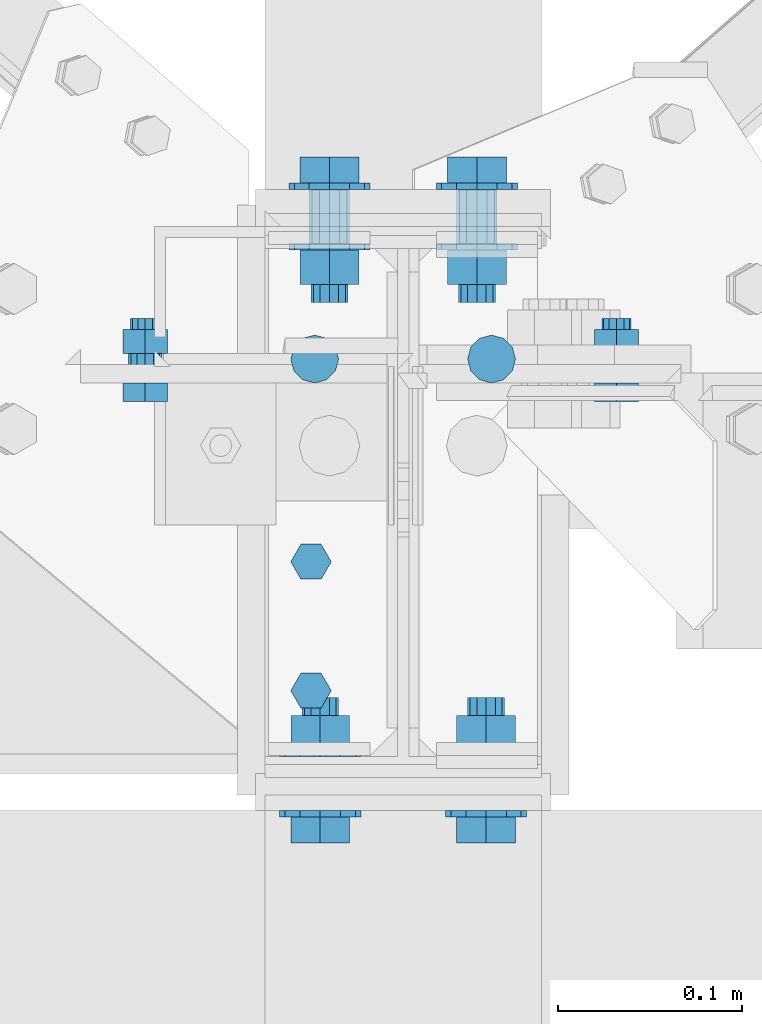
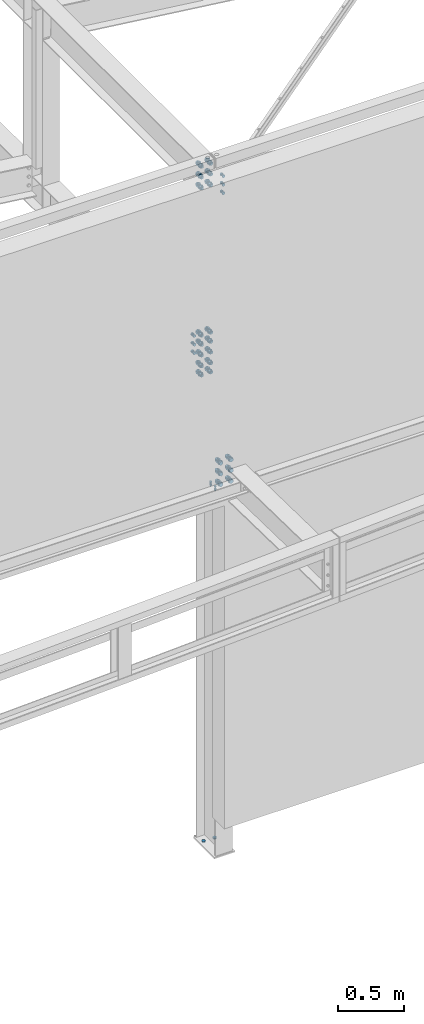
# One storey, part 103 of 3134: 7 mechanical fasteners, 6 elements without a shape of their own.
"""IFC2X3 building model written with IfcOpenShell, lengths in millimetres."""

import ifcopenshell
import ifcopenshell.guid

model = None  # the IFC model being written
_history = None  # IfcOwnerHistory: only IFC2X3 demands one
_inside = {}  # id of a spatial element -> (the spatial element, [elements in it])
_under = {}  # id of a project, library or spatial element -> (it, [spatial elements below it])
_declared = {}  # id of a project -> (the project, [libraries it declares])
_typed = {}  # id of a type object -> (the type object, [elements of that type])
_made_of = {}  # id of a material, layer set ... -> (it, [elements and type objects made of it])


def new_model(schema):
    """Start an empty IFC model of exactly this schema.

    Asked for "IFC4X3", IfcOpenShell would pick the latest addendum, in which some entities
    have other attributes; the version numbers below select the first issue.
    IFC2X3 requires an IfcOwnerHistory on every rooted entity: one is made here for all.
    """
    global model, _history
    if schema == "IFC4X3":
        model = ifcopenshell.file(schema_version=(4, 3, 0, 0))
    else:
        model = ifcopenshell.file(schema=schema)
    _inside.clear()
    _under.clear()
    _declared.clear()
    _typed.clear()
    _made_of.clear()
    _history = None
    if model.schema == "IFC2X3":
        org = make("IfcOrganization", Name="unknown")
        user = make(
            "IfcPersonAndOrganization",
            ThePerson=make("IfcPerson", FamilyName="unknown"),
            TheOrganization=org,
        )
        app = make(
            "IfcApplication",
            ApplicationDeveloper=org,
            Version="unknown",
            ApplicationFullName="unknown",
            ApplicationIdentifier="unknown",
        )
        _history = make(
            "IfcOwnerHistory",
            OwningUser=user,
            OwningApplication=app,
            ChangeAction="ADDED",
            CreationDate=0,
        )
    return model


def make(cls, **values):
    """One entity of the class cls with the attributes given. An attribute that is None is left unset."""
    return model.create_entity(
        cls, **{name: value for name, value in values.items() if value is not None}
    )


def rooted(cls, **values):
    """An entity with a GlobalId (a new one), such as an element, a storey or a relation."""
    return make(cls, GlobalId=ifcopenshell.guid.new(), OwnerHistory=_history, **values)


def si_unit(unit_type, name, prefix=None):
    """IfcSIUnit, for example si_unit("LENGTHUNIT", "METRE", prefix="MILLI")."""
    return make("IfcSIUnit", UnitType=unit_type, Prefix=prefix, Name=name)


def assignment(units):
    """IfcUnitAssignment: the units of a project."""
    return None if units is None else make("IfcUnitAssignment", Units=units)


def point(xyz):
    """IfcCartesianPoint."""
    return None if xyz is None else make("IfcCartesianPoint", Coordinates=xyz)


def direction(xyz):
    """IfcDirection."""
    return None if xyz is None else make("IfcDirection", DirectionRatios=xyz)


def frame(location, z_axis=None, x_axis=None):
    """IfcAxis2Placement3D, a coordinate frame: its origin and axes. An axis left out is left unset."""
    return make(
        "IfcAxis2Placement3D",
        Location=point(location),
        Axis=direction(z_axis),
        RefDirection=direction(x_axis),
    )


def origin_with_axes():
    """The frame at (0, 0, 0) with the z axis (0, 0, 1) and the x axis (1, 0, 0) written out."""
    return frame((0.0, 0.0, 0.0), z_axis=(0.0, 0.0, 1.0), x_axis=(1.0, 0.0, 0.0))


def place(relative_to, where):
    """IfcLocalPlacement: puts the frame where relative to a parent placement (None: the world)."""
    return make(
        "IfcLocalPlacement", PlacementRelTo=relative_to, RelativePlacement=where
    )


def context(
    kind, dimensions, precision=None, world=None, true_north=None, identifier=None
):
    """IfcGeometricRepresentationContext, for example the 3D "Model" context."""
    return make(
        "IfcGeometricRepresentationContext",
        ContextIdentifier=identifier,
        ContextType=kind,
        CoordinateSpaceDimension=dimensions,
        Precision=precision,
        WorldCoordinateSystem=world,
        TrueNorth=true_north,
    )


def subcontext(parent, identifier, kind, view, scale=None):
    """IfcGeometricRepresentationSubContext, for example "Body" below "Model"."""
    return make(
        "IfcGeometricRepresentationSubContext",
        ContextIdentifier=identifier,
        ContextType=kind,
        ParentContext=parent,
        TargetScale=scale,
        TargetView=view,
    )


def project(units=None, contexts=None):
    """IfcProject with its units and contexts."""
    return rooted(
        "IfcProject",
        Name="project",
        RepresentationContexts=contexts,
        UnitsInContext=assignment(units),
    )


def spatial(cls, under=None, at=None, **own):
    """A site, building, storey or space (cls), placed at a placement, below another one or the project."""
    s = rooted(cls, ObjectPlacement=at, **own)
    if under is not None:
        _under.setdefault(under.id(), (under, []))[1].append(s)
    return s


def faces_of(points, faces, orient=None, outer=None):
    """IfcFace entities. A face is a list of loops; a loop is a list of indices into points, from 0.

    orient and outer hold one flag for each loop. By default every Orientation is true, the
    first loop of a face is its IfcFaceOuterBound and the others are IfcFaceBound.
    """
    made = []
    for i, loops in enumerate(faces):
        bounds = []
        for j, loop in enumerate(loops):
            is_outer = j == 0 if outer is None else outer[i][j]
            bounds.append(
                make(
                    "IfcFaceOuterBound" if is_outer else "IfcFaceBound",
                    Bound=make("IfcPolyLoop", Polygon=[points[k] for k in loop]),
                    Orientation=True if orient is None else orient[i][j],
                )
            )
        made.append(make("IfcFace", Bounds=bounds))
    return made


def faceted_brep(points, faces, orient=None, outer=None, voids=None):
    """IfcFacetedBrep: a solid bounded by flat faces; with voids (closed shells), ...WithVoids."""
    shared = [point(p) for p in points]
    hull = make("IfcClosedShell", CfsFaces=faces_of(shared, faces, orient, outer))
    if voids is None:
        return make("IfcFacetedBrep", Outer=hull)
    return make(
        "IfcFacetedBrepWithVoids",
        Outer=hull,
        Voids=[
            make(cls, CfsFaces=faces_of(shared, fs, o, b)) for cls, fs, o, b in voids
        ],
    )


def shape(context_of_items, identifier, shape_type, items):
    """IfcShapeRepresentation: the items that make up one representation, for example the "Body"."""
    return make(
        "IfcShapeRepresentation",
        ContextOfItems=context_of_items,
        RepresentationIdentifier=identifier,
        RepresentationType=shape_type,
        Items=items,
    )


def source(mapping_origin, context_of_items, identifier, shape_type, items):
    """IfcRepresentationMap: a shape defined once, which mapped items show again and again."""
    return make(
        "IfcRepresentationMap",
        MappingOrigin=mapping_origin,
        MappedRepresentation=shape(context_of_items, identifier, shape_type, items),
    )


def transform(
    local_origin,
    x_axis=None,
    y_axis=None,
    z_axis=None,
    scale=None,
    scale2=None,
    scale3=None,
    uniform=True,
):
    """IfcCartesianTransformationOperator3D, or its non-uniform kind. x_axis, y_axis, z_axis: its Axis1, 2, 3."""
    if uniform:
        return make(
            "IfcCartesianTransformationOperator3D",
            Axis1=direction(x_axis),
            Axis2=direction(y_axis),
            LocalOrigin=point(local_origin),
            Scale=scale,
            Axis3=direction(z_axis),
        )
    return make(
        "IfcCartesianTransformationOperator3DnonUniform",
        Axis1=direction(x_axis),
        Axis2=direction(y_axis),
        LocalOrigin=point(local_origin),
        Scale=scale,
        Axis3=direction(z_axis),
        Scale2=scale2,
        Scale3=scale3,
    )


def mapped(mapping_source, mapping_target):
    """IfcMappedItem: shows the shape of a source again, moved by a transform."""
    return make(
        "IfcMappedItem", MappingSource=mapping_source, MappingTarget=mapping_target
    )


def material(Name=None, Category=None):
    """IfcMaterial."""
    return make("IfcMaterial", Name=Name, Category=Category)


def made_of(thing, what):
    """Note that an element or type object is made of a material, layer set ...; save() writes the relation."""
    if what is not None:
        _made_of.setdefault(what.id(), (what, []))[1].append(thing)
    return thing


def type_object(cls, material=None, **own):
    """A type object (cls), such as IfcWallType, which elements share."""
    return made_of(rooted(cls, **own), material)


def element(
    cls,
    number,
    at=None,
    inside=None,
    cuts=None,
    type_object=None,
    material=None,
    context=None,
    identifier="Body",
    shape_type=None,
    held_by="IfcProductDefinitionShape",
    body=None,
    shapes=None,
    **own,
):
    """One element of the class cls, such as IfcWall. Its Tag is "e" and its number.

    at: its placement. inside: the storey or other place that contains it. cuts: it is an
    opening in that element (IfcRelVoidsElement). A single representation is given by context,
    identifier, shape_type and body (its items); several are given by shapes. held_by: the class
    of the entity that holds the representations. save() writes the other relations.
    """
    e = rooted(cls, Tag="e%d" % number, ObjectPlacement=at, **own)
    if body is not None:
        shapes = [shape(context, identifier, shape_type, body)]
    if shapes is not None:
        e.Representation = make(held_by, Representations=shapes)
    if inside is not None:
        _inside.setdefault(inside.id(), (inside, []))[1].append(e)
    if cuts is not None:
        rooted(
            "IfcRelVoidsElement", RelatingBuildingElement=cuts, RelatedOpeningElement=e
        )
    if type_object is not None:
        _typed.setdefault(type_object.id(), (type_object, []))[1].append(e)
    return made_of(e, material)


def aggregate(whole, parts):
    """IfcRelAggregates: a whole, such as a stair, and the parts it consists of."""
    return rooted("IfcRelAggregates", RelatingObject=whole, RelatedObjects=parts)


def save(model, path):
    """Write the relations noted so far, then the file.

    IfcRelAggregates (storeys below a building ...), IfcRelContainedInSpatialStructure (elements
    in a storey), IfcRelDefinesByType, IfcRelAssociatesMaterial and IfcRelDeclares: one each for
    every whole, place, type object, material and project.
    """
    for whole, parts in _under.values():
        aggregate(whole, parts)
    for where, things in _inside.values():
        rooted(
            "IfcRelContainedInSpatialStructure",
            RelatedElements=things,
            RelatingStructure=where,
        )
    for kind, things in _typed.values():
        rooted("IfcRelDefinesByType", RelatedObjects=things, RelatingType=kind)
    for what, things in _made_of.values():
        rooted("IfcRelAssociatesMaterial", RelatedObjects=things, RelatingMaterial=what)
    for by, libraries in _declared.values():
        rooted("IfcRelDeclares", RelatingContext=by, RelatedDefinitions=libraries)
    model.write(path)


model = new_model("IFC2X3")

# Units and contexts
model_context = context("Model", 3, precision=1e-05, world=origin_with_axes())
body_context = subcontext(model_context, "Body", "Model", "MODEL_VIEW")
ifc_project = project(units=[si_unit("LENGTHUNIT", "METRE", prefix="MILLI"), si_unit("AREAUNIT", "SQUARE_METRE"), si_unit("VOLUMEUNIT", "CUBIC_METRE"), si_unit("MASSUNIT", "GRAM", prefix="KILO"), si_unit("TIMEUNIT", "SECOND"), si_unit("PLANEANGLEUNIT", "RADIAN"), si_unit("SOLIDANGLEUNIT", "STERADIAN"), si_unit("THERMODYNAMICTEMPERATUREUNIT", "DEGREE_CELSIUS"), si_unit("LUMINOUSINTENSITYUNIT", "LUMEN")], contexts=[model_context])

# Site, building, storey
site_placement = place(None, origin_with_axes())
site = spatial("IfcSite", under=ifc_project, at=site_placement, CompositionType="ELEMENT")
building_placement = place(site_placement, origin_with_axes())
building = spatial("IfcBuilding", under=site, at=building_placement, Name="Undefined", CompositionType="ELEMENT")
storey_placement = place(building_placement, origin_with_axes())
storey = spatial("IfcBuildingStorey", under=building, at=storey_placement, Name="Undefined", CompositionType="ELEMENT", Elevation=0.0)

# Assembly, mechanical fastener
assembly_1_placement = place(storey_placement, origin_with_axes())
assembly_1 = element("IfcElementAssembly", 1, at=assembly_1_placement, inside=storey, Name="UPN160", AssemblyPlace="NOTDEFINED", PredefinedType="RIGID_FRAME")
ifc_material_1 = material(Name="8.8")
mechanical_fastener_type = type_object("IfcMechanicalFastenerType", Name="Bolt assembly")
shared_shape_1 = source(origin_with_axes(), body_context, "Body", "Brep", [
    faceted_brep([(10.9696551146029, -15.5, 0.0), (5.48482755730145, -15.5, 9.5), (-5.48482755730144, -15.5, 9.5), (-10.9696551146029, -15.5, 1.34339530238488e-15), (-5.48482755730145, -15.5, -9.5), (5.48482755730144, -15.5, -9.50000000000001), (5.48482755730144, -7.5, -9.50000000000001), (-5.48482755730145, -7.5, -9.5), (-10.9696551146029, -7.5, 1.34339530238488e-15), (-5.48482755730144, -7.5, 9.5), (5.48482755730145, -7.5, 9.5), (10.9696551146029, -7.5, 0.0), (6.0, -7.5, 0.0), (5.19615242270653, -7.5, 3.00000000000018), (2.99999999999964, -7.5, 5.19615242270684), (-6.21801588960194e-13, -7.5, 6.0), (-3.00000000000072, -7.5, 5.19615242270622), (-5.19615242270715, -7.5, 2.9999999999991), (-6.0, -7.5, -1.24360317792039e-12), (-5.19615242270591, -7.5, -3.00000000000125), (-2.99999999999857, -7.5, -5.19615242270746), (1.85874342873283e-12, -7.5, -6.0), (3.00000000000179, -7.5, -5.1961524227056), (5.19615242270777, -7.5, -2.99999999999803), (5.19615242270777, 27.5000000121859, -2.99999999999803), (3.00000000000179, 27.5000000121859, -5.1961524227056), (1.85874342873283e-12, 27.5000000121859, -6.0), (-2.99999999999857, 27.5000000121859, -5.19615242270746), (-5.19615242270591, 27.5000000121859, -3.00000000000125), (-6.0, 27.5000000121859, -1.24360317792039e-12), (-5.19615242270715, 27.5000000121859, 2.9999999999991), (-3.00000000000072, 27.5000000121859, 5.19615242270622), (-6.21801588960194e-13, 27.5000000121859, 6.0), (2.99999999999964, 27.5000000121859, 5.19615242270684), (5.19615242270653, 27.5000000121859, 3.00000000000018), (6.0, 27.5000000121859, 0.0), (10.9696551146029, 10.0, 0.0), (5.48482755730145, 10.0, 9.5), (-5.48482755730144, 10.0, 9.5), (-10.9696551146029, 10.0, 1.34339530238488e-15), (-5.48482755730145, 10.0, -9.5), (5.48482755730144, 10.0, -9.50000000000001), (5.48482755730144, 20.0, -9.50000000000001), (-5.48482755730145, 20.0, -9.5), (-10.9696551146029, 20.0, 1.34339530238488e-15), (-5.48482755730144, 20.0, 9.5), (5.48482755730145, 20.0, 9.5), (10.9696551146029, 20.0, 0.0)], [[[0, 1, 2, 3, 4, 5]], [[6, 7, 8, 9, 10, 11]], [[0, 11, 10, 1]], [[1, 10, 9, 2]], [[2, 9, 8, 3]], [[3, 8, 7, 4]], [[4, 7, 6, 5]], [[5, 6, 11, 0]], [[12, 13, 14, 15, 16, 17, 18, 19, 20, 21, 22, 23]], [[24, 25, 26, 27, 28, 29, 30, 31, 32, 33, 34, 35]], [[12, 35, 34, 13]], [[13, 34, 33, 14]], [[14, 33, 32, 15]], [[15, 32, 31, 16]], [[16, 31, 30, 17]], [[17, 30, 29, 18]], [[18, 29, 28, 19]], [[19, 28, 27, 20]], [[20, 27, 26, 21]], [[21, 26, 25, 22]], [[22, 25, 24, 23]], [[23, 24, 35, 12]], [[36, 37, 38, 39, 40, 41]], [[42, 43, 44, 45, 46, 47]], [[36, 47, 46, 37]], [[37, 46, 45, 38]], [[38, 45, 44, 39]], [[39, 44, 43, 40]], [[40, 43, 42, 41]], [[41, 42, 47, 36]]]),
    faceted_brep([(7.0, -0.1, 0.0), (6.06217782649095, -0.1, 3.50000000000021), (3.49999999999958, -0.1, 6.06217782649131), (-7.25435187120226e-13, -0.1, 7.0), (-3.50000000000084, -0.1, 6.06217782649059), (-6.06217782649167, -0.1, 3.49999999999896), (-7.0, -0.1, -1.45087037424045e-12), (-6.06217782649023, -0.1, -3.50000000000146), (-3.49999999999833, -0.1, -6.06217782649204), (2.1685340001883e-12, -0.1, -7.0), (3.50000000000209, -0.1, -6.06217782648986), (6.0621778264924, -0.1, -3.4999999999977), (6.0621778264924, 10.0, -3.4999999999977), (3.50000000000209, 10.0, -6.06217782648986), (2.1685340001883e-12, 10.0, -7.0), (-3.49999999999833, 10.0, -6.06217782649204), (-6.06217782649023, 10.0, -3.50000000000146), (-7.0, 10.0, -1.45087037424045e-12), (-6.06217782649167, 10.0, 3.49999999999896), (-3.50000000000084, 10.0, 6.06217782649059), (-7.25435187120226e-13, 10.0, 7.0), (3.49999999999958, 10.0, 6.06217782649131), (6.06217782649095, 10.0, 3.50000000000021), (7.0, 10.0, 0.0), (7.0, -7.4, 0.0), (6.06217782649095, -7.4, 3.50000000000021), (3.49999999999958, -7.4, 6.06217782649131), (-7.25435187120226e-13, -7.4, 7.0), (-3.50000000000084, -7.4, 6.06217782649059), (-6.06217782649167, -7.4, 3.49999999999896), (-7.0, -7.4, -1.45087037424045e-12), (-6.06217782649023, -7.4, -3.50000000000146), (-3.49999999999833, -7.4, -6.06217782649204), (2.1685340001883e-12, -7.4, -7.0), (3.50000000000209, -7.4, -6.06217782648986), (6.0621778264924, -7.4, -3.4999999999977), (6.0621778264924, 0.0999999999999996, -3.4999999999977), (3.50000000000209, 0.0999999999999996, -6.06217782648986), (2.1685340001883e-12, 0.0999999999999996, -7.0), (-3.49999999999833, 0.0999999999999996, -6.06217782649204), (-6.06217782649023, 0.0999999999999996, -3.50000000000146), (-7.0, 0.0999999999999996, -1.45087037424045e-12), (-6.06217782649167, 0.0999999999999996, 3.49999999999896), (-3.50000000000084, 0.0999999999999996, 6.06217782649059), (-7.25435187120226e-13, 0.0999999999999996, 7.0), (3.49999999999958, 0.0999999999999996, 6.06217782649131), (6.06217782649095, 0.0999999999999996, 3.50000000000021), (7.0, 0.0999999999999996, 0.0)], [[[0, 1, 2, 3, 4, 5, 6, 7, 8, 9, 10, 11]], [[12, 13, 14, 15, 16, 17, 18, 19, 20, 21, 22, 23]], [[0, 23, 22, 1]], [[1, 22, 21, 2]], [[2, 21, 20, 3]], [[3, 20, 19, 4]], [[4, 19, 18, 5]], [[5, 18, 17, 6]], [[6, 17, 16, 7]], [[7, 16, 15, 8]], [[8, 15, 14, 9]], [[9, 14, 13, 10]], [[10, 13, 12, 11]], [[11, 12, 23, 0]], [[24, 25, 26, 27, 28, 29, 30, 31, 32, 33, 34, 35]], [[36, 37, 38, 39, 40, 41, 42, 43, 44, 45, 46, 47]], [[24, 47, 46, 25]], [[25, 46, 45, 26]], [[26, 45, 44, 27]], [[27, 44, 43, 28]], [[28, 43, 42, 29]], [[29, 42, 41, 30]], [[30, 41, 40, 31]], [[31, 40, 39, 32]], [[32, 39, 38, 33]], [[33, 38, 37, 34]], [[34, 37, 36, 35]], [[35, 36, 47, 24]]]),
])
mechanical_fastener_1_placement = place(assembly_1_placement, frame((32474.9999999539, -145.0, 3000.00000001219), z_axis=(0.0, 1.0, 0.0), x_axis=(1.0, 0.0, 0.0)))
mechanical_fastener_1 = element("IfcMechanicalFastener", 2, at=mechanical_fastener_1_placement, type_object=mechanical_fastener_type, material=ifc_material_1, Name="Bolt assembly", NominalDiameter=12.0, NominalLength=35.0, context=body_context, shape_type="MappedRepresentation", body=[
    mapped(shared_shape_1, transform((0.0, 0.0, -35.0))),
    mapped(shared_shape_1, transform((0.0, 0.0, 35.0))),
])
aggregate(assembly_1, [mechanical_fastener_1])

assembly_2_placement = place(storey_placement, origin_with_axes())
assembly_2 = element("IfcElementAssembly", 3, at=assembly_2_placement, inside=storey, Name="300", AssemblyPlace="NOTDEFINED", PredefinedType="RIGID_FRAME")
ifc_material_2 = material(Name="HR10.9")
shared_shape_2 = source(origin_with_axes(), body_context, "Body", "Brep", [
    faceted_brep([(18.475208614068, -17.599999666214, 0.0), (9.23760430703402, -17.599999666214, 16.0), (-9.23760430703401, -17.599999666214, 16.0), (-18.475208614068, -17.599999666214, 2.2625605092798e-15), (-9.23760430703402, -17.599999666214, -16.0), (9.237604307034, -17.599999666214, -16.0), (9.237604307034, -3.70000004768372, -16.0), (-9.23760430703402, -3.70000004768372, -16.0), (-18.475208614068, -3.70000004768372, 2.2625605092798e-15), (-9.23760430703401, -3.70000004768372, 16.0), (9.23760430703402, -3.70000004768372, 16.0), (18.475208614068, -3.70000004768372, 0.0), (10.0, -3.70000004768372, 0.0), (8.66025403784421, -3.70000004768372, 5.0000000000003), (4.9999999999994, -3.70000004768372, 8.66025403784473), (-1.03633598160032e-12, -3.70000004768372, 10.0), (-5.00000000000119, -3.70000004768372, 8.6602540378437), (-8.66025403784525, -3.70000004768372, 4.99999999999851), (-10.0, -3.70000004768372, -2.07267196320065e-12), (-8.66025403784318, -3.70000004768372, -5.00000000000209), (-4.99999999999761, -3.70000004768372, -8.66025403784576), (3.09790571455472e-12, -3.70000004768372, -10.0), (5.00000000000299, -3.70000004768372, -8.66025403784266), (8.66025403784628, -3.70000004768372, -4.99999999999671), (8.66025403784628, 61.2999999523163, -4.99999999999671), (5.00000000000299, 61.2999999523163, -8.66025403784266), (3.09790571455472e-12, 61.2999999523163, -10.0), (-4.99999999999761, 61.2999999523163, -8.66025403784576), (-8.66025403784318, 61.2999999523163, -5.00000000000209), (-10.0, 61.2999999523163, -2.07267196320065e-12), (-8.66025403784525, 61.2999999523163, 4.99999999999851), (-5.00000000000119, 61.2999999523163, 8.6602540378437), (-1.03633598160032e-12, 61.2999999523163, 10.0), (4.9999999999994, 61.2999999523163, 8.66025403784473), (8.66025403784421, 61.2999999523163, 5.0000000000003), (10.0, 61.2999999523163, 0.0), (22.0, -3.70000004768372, 0.0), (19.0525588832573, -3.70000004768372, 11.0000000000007), (10.9999999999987, -3.70000004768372, 19.0525588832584), (-2.27993915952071e-12, -3.70000004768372, 22.0), (-11.0000000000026, -3.70000004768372, 19.0525588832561), (-19.0525588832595, -3.70000004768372, 10.9999999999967), (-22.0, -3.70000004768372, -4.55987831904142e-12), (-19.052558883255, -3.70000004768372, -11.0000000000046), (-10.9999999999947, -3.70000004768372, -19.0525588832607), (6.81539257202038e-12, -3.70000004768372, -22.0), (11.0000000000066, -3.70000004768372, -19.0525588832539), (19.0525588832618, -3.70000004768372, -10.9999999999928), (19.0525588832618, 0.0, -10.9999999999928), (11.0000000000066, 0.0, -19.0525588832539), (6.81539257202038e-12, 0.0, -22.0), (-10.9999999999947, 0.0, -19.0525588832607), (-19.052558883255, 0.0, -11.0000000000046), (-22.0, 0.0, -4.55987831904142e-12), (-19.0525588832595, 0.0, 10.9999999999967), (-11.0000000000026, 0.0, 19.0525588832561), (-2.27993915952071e-12, 0.0, 22.0), (10.9999999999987, 0.0, 19.0525588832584), (19.0525588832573, 0.0, 11.0000000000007), (22.0, 0.0, 0.0), (22.0, 29.1999998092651, 0.0), (19.0525588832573, 29.1999998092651, 11.0000000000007), (10.9999999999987, 29.1999998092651, 19.0525588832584), (-2.27993915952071e-12, 29.1999998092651, 22.0), (-11.0000000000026, 29.1999998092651, 19.0525588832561), (-19.0525588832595, 29.1999998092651, 10.9999999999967), (-22.0, 29.1999998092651, -4.55987831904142e-12), (-19.052558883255, 29.1999998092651, -11.0000000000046), (-10.9999999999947, 29.1999998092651, -19.0525588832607), (6.81539257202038e-12, 29.1999998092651, -22.0), (11.0000000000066, 29.1999998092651, -19.0525588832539), (19.0525588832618, 29.1999998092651, -10.9999999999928), (19.0525588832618, 32.8999998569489, -10.9999999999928), (11.0000000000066, 32.8999998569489, -19.0525588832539), (6.81539257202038e-12, 32.8999998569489, -22.0), (-10.9999999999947, 32.8999998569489, -19.0525588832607), (-19.052558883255, 32.8999998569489, -11.0000000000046), (-22.0, 32.8999998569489, -4.55987831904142e-12), (-19.0525588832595, 32.8999998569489, 10.9999999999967), (-11.0000000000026, 32.8999998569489, 19.0525588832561), (-2.27993915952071e-12, 32.8999998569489, 22.0), (10.9999999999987, 32.8999998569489, 19.0525588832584), (19.0525588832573, 32.8999998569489, 11.0000000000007), (22.0, 32.8999998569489, 0.0), (18.475208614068, 32.8999998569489, 0.0), (9.23760430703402, 32.8999998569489, 16.0), (-9.23760430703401, 32.8999998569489, 16.0), (-18.475208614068, 32.8999998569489, 2.2625605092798e-15), (-9.23760430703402, 32.8999998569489, -16.0), (9.237604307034, 32.8999998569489, -16.0), (9.237604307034, 51.4499990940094, -16.0), (-9.23760430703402, 51.4499990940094, -16.0), (-18.475208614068, 51.4499990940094, 2.2625605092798e-15), (-9.23760430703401, 51.4499990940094, 16.0), (9.23760430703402, 51.4499990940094, 16.0), (18.475208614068, 51.4499990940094, 0.0)], [[[0, 1, 2, 3, 4, 5]], [[6, 7, 8, 9, 10, 11]], [[0, 11, 10, 1]], [[1, 10, 9, 2]], [[2, 9, 8, 3]], [[3, 8, 7, 4]], [[4, 7, 6, 5]], [[5, 6, 11, 0]], [[12, 13, 14, 15, 16, 17, 18, 19, 20, 21, 22, 23]], [[24, 25, 26, 27, 28, 29, 30, 31, 32, 33, 34, 35]], [[12, 35, 34, 13]], [[13, 34, 33, 14]], [[14, 33, 32, 15]], [[15, 32, 31, 16]], [[16, 31, 30, 17]], [[17, 30, 29, 18]], [[18, 29, 28, 19]], [[19, 28, 27, 20]], [[20, 27, 26, 21]], [[21, 26, 25, 22]], [[22, 25, 24, 23]], [[23, 24, 35, 12]], [[36, 37, 38, 39, 40, 41, 42, 43, 44, 45, 46, 47]], [[48, 49, 50, 51, 52, 53, 54, 55, 56, 57, 58, 59]], [[36, 59, 58, 37]], [[37, 58, 57, 38]], [[38, 57, 56, 39]], [[39, 56, 55, 40]], [[40, 55, 54, 41]], [[41, 54, 53, 42]], [[42, 53, 52, 43]], [[43, 52, 51, 44]], [[44, 51, 50, 45]], [[45, 50, 49, 46]], [[46, 49, 48, 47]], [[47, 48, 59, 36]], [[60, 61, 62, 63, 64, 65, 66, 67, 68, 69, 70, 71]], [[72, 73, 74, 75, 76, 77, 78, 79, 80, 81, 82, 83]], [[60, 83, 82, 61]], [[61, 82, 81, 62]], [[62, 81, 80, 63]], [[63, 80, 79, 64]], [[64, 79, 78, 65]], [[65, 78, 77, 66]], [[66, 77, 76, 67]], [[67, 76, 75, 68]], [[68, 75, 74, 69]], [[69, 74, 73, 70]], [[70, 73, 72, 71]], [[71, 72, 83, 60]], [[84, 85, 86, 87, 88, 89]], [[90, 91, 92, 93, 94, 95]], [[84, 95, 94, 85]], [[85, 94, 93, 86]], [[86, 93, 92, 87]], [[87, 92, 91, 88]], [[88, 91, 90, 89]], [[89, 90, 95, 84]]]),
    faceted_brep([(11.0, 19.9, 0.0), (9.52627944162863, 19.9, 5.50000000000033), (5.49999999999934, 19.9, 9.5262794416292), (-1.13996957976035e-12, 19.9, 11.0), (-5.50000000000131, 19.9, 9.52627944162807), (-9.52627944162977, 19.9, 5.49999999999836), (-11.0, 19.9, -2.27993915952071e-12), (-9.5262794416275, 19.9, -5.5000000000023), (-5.49999999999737, 19.9, -9.52627944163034), (3.40769628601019e-12, 19.9, -11.0), (5.50000000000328, 19.9, -9.52627944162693), (9.52627944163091, 19.9, -5.49999999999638), (9.52627944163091, 29.1999998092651, -5.49999999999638), (5.50000000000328, 29.1999998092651, -9.52627944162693), (3.40769628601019e-12, 29.1999998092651, -11.0), (-5.49999999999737, 29.1999998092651, -9.52627944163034), (-9.5262794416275, 29.1999998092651, -5.5000000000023), (-11.0, 29.1999998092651, -2.27993915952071e-12), (-9.52627944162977, 29.1999998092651, 5.49999999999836), (-5.50000000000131, 29.1999998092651, 9.52627944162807), (-1.13996957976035e-12, 29.1999998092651, 11.0), (5.49999999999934, 29.1999998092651, 9.5262794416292), (9.52627944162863, 29.1999998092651, 5.50000000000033), (11.0, 29.1999998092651, 0.0), (11.0, 0.0999999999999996, 0.0), (9.52627944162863, 0.0999999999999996, 5.50000000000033), (5.49999999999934, 0.0999999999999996, 9.5262794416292), (-1.13996957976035e-12, 0.0999999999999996, 11.0), (-5.50000000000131, 0.0999999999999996, 9.52627944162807), (-9.52627944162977, 0.0999999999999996, 5.49999999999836), (-11.0, 0.0999999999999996, -2.27993915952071e-12), (-9.5262794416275, 0.0999999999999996, -5.5000000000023), (-5.49999999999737, 0.0999999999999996, -9.52627944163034), (3.40769628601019e-12, 0.0999999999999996, -11.0), (5.50000000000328, 0.0999999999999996, -9.52627944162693), (9.52627944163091, 0.0999999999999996, -5.49999999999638), (9.52627944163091, 20.1, -5.49999999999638), (5.50000000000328, 20.1, -9.52627944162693), (3.40769628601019e-12, 20.1, -11.0), (-5.49999999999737, 20.1, -9.52627944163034), (-9.5262794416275, 20.1, -5.5000000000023), (-11.0, 20.1, -2.27993915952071e-12), (-9.52627944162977, 20.1, 5.49999999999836), (-5.50000000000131, 20.1, 9.52627944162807), (-1.13996957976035e-12, 20.1, 11.0), (5.49999999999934, 20.1, 9.5262794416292), (9.52627944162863, 20.1, 5.50000000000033), (11.0, 20.1, 0.0)], [[[0, 1, 2, 3, 4, 5, 6, 7, 8, 9, 10, 11]], [[12, 13, 14, 15, 16, 17, 18, 19, 20, 21, 22, 23]], [[0, 23, 22, 1]], [[1, 22, 21, 2]], [[2, 21, 20, 3]], [[3, 20, 19, 4]], [[4, 19, 18, 5]], [[5, 18, 17, 6]], [[6, 17, 16, 7]], [[7, 16, 15, 8]], [[8, 15, 14, 9]], [[9, 14, 13, 10]], [[10, 13, 12, 11]], [[11, 12, 23, 0]], [[24, 25, 26, 27, 28, 29, 30, 31, 32, 33, 34, 35]], [[36, 37, 38, 39, 40, 41, 42, 43, 44, 45, 46, 47]], [[24, 47, 46, 25]], [[25, 46, 45, 26]], [[26, 45, 44, 27]], [[27, 44, 43, 28]], [[28, 43, 42, 29]], [[29, 42, 41, 30]], [[30, 41, 40, 31]], [[31, 40, 39, 32]], [[32, 39, 38, 33]], [[33, 38, 37, 34]], [[34, 37, 36, 35]], [[35, 36, 47, 24]]]),
])
mechanical_fastener_2_placement = place(assembly_2_placement, frame((32525.0, -245.0, 3270.85230476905), z_axis=(1.0, 0.0, 0.0), x_axis=(0.0, 0.0, -1.0)))
mechanical_fastener_2 = element("IfcMechanicalFastener", 4, at=mechanical_fastener_2_placement, type_object=mechanical_fastener_type, material=ifc_material_2, Name="Bolt assembly", NominalDiameter=20.0, NominalLength=65.0, context=body_context, shape_type="MappedRepresentation", body=[
    mapped(shared_shape_2, transform((0.0, 0.0, -45.0))),
    mapped(shared_shape_2, transform((100.0, 0.0, -45.0))),
    mapped(shared_shape_2, transform((200.0, 0.0, -45.0))),
    mapped(shared_shape_2, transform((0.0, 0.0, 45.0))),
    mapped(shared_shape_2, transform((100.0, 0.0, 45.0))),
    mapped(shared_shape_2, transform((200.0, 0.0, 45.0))),
])
aggregate(assembly_2, [mechanical_fastener_2])

# Assembly, mechanical fasteners
assembly_3_placement = place(storey_placement, origin_with_axes())
assembly_3 = element("IfcElementAssembly", 5, at=assembly_3_placement, inside=storey, Name="300", AssemblyPlace="NOTDEFINED", PredefinedType="RIGID_FRAME")
mechanical_fastener_3_placement = place(assembly_3_placement, frame((32525.0, 92.0, 5841.5), z_axis=(-1.0, 0.0, 0.0), x_axis=(0.0, 0.0, -1.0)))
mechanical_fastener_3 = element("IfcMechanicalFastener", 6, at=mechanical_fastener_3_placement, type_object=mechanical_fastener_type, material=ifc_material_2, Name="Bolt assembly", NominalDiameter=20.0, NominalLength=65.0, context=body_context, shape_type="MappedRepresentation", body=[
    mapped(shared_shape_2, transform((0.0, 0.0, -40.0))),
    mapped(shared_shape_2, transform((100.0, 0.0, -40.0))),
    mapped(shared_shape_2, transform((200.0, 0.0, -40.0))),
    mapped(shared_shape_2, transform((0.0, 0.0, 40.0))),
    mapped(shared_shape_2, transform((100.0, 0.0, 40.0))),
    mapped(shared_shape_2, transform((200.0, 0.0, 40.0))),
])
mechanical_fastener_4_placement = place(assembly_3_placement, frame((32525.0, 92.0, 4273.5), z_axis=(-1.0, 0.0, 0.0), x_axis=(0.0, 0.0, -1.0)))
mechanical_fastener_4 = element("IfcMechanicalFastener", 7, at=mechanical_fastener_4_placement, type_object=mechanical_fastener_type, material=ifc_material_2, Name="Bolt assembly", NominalDiameter=20.0, NominalLength=65.0, context=body_context, shape_type="MappedRepresentation", body=[
    mapped(shared_shape_2, transform((0.0, 0.0, -40.0))),
    mapped(shared_shape_2, transform((85.0, 0.0, -40.0))),
    mapped(shared_shape_2, transform((185.0, 0.0, -40.0))),
    mapped(shared_shape_2, transform((285.0, 0.0, -40.0))),
    mapped(shared_shape_2, transform((370.0, 0.0, -40.0))),
    mapped(shared_shape_2, transform((0.0, 0.0, 40.0))),
    mapped(shared_shape_2, transform((85.0, 0.0, 40.0))),
    mapped(shared_shape_2, transform((185.0, 0.0, 40.0))),
    mapped(shared_shape_2, transform((285.0, 0.0, 40.0))),
    mapped(shared_shape_2, transform((370.0, 0.0, 40.0))),
])
aggregate(assembly_3, [mechanical_fastener_3, mechanical_fastener_4])

# Assembly, mechanical fastener
assembly_4_placement = place(storey_placement, origin_with_axes())
assembly_4 = element("IfcElementAssembly", 8, at=assembly_4_placement, inside=storey, Name="300", AssemblyPlace="NOTDEFINED", PredefinedType="RIGID_FRAME")
shared_shape_3 = source(origin_with_axes(), body_context, "Body", "Brep", [
    faceted_brep([(13.856406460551, -23.0499999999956, 0.0), (6.92820323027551, -23.0499999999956, 12.0), (-6.92820323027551, -23.0499999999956, 12.0), (-13.856406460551, -23.0499999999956, 1.69692038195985e-15), (-6.92820323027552, -23.0499999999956, -12.0), (6.9282032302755, -23.0499999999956, -12.0), (6.9282032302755, -13.0499999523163, -12.0), (-6.92820323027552, -13.0499999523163, -12.0), (-13.856406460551, -13.0499999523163, 1.69692038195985e-15), (-6.92820323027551, -13.0499999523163, 12.0), (6.92820323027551, -13.0499999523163, 12.0), (13.856406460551, -13.0499999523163, 0.0), (8.0, -13.0499999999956, 0.0), (6.92820323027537, -13.0499999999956, 4.00000000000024), (3.99999999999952, -13.0499999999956, 6.92820323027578), (-8.29068785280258e-13, -13.0499999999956, 8.0), (-4.00000000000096, -13.0499999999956, 6.92820323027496), (-6.9282032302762, -13.0499999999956, 3.99999999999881), (-8.0, -13.0499999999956, -1.65813757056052e-12), (-6.92820323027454, -13.0499999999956, -4.00000000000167), (-3.99999999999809, -13.0499999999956, -6.92820323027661), (2.47832457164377e-12, -13.0499999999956, -8.0), (4.00000000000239, -13.0499999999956, -6.92820323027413), (6.92820323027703, -13.0499999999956, -3.99999999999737), (6.92820323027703, 21.9500000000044, -3.99999999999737), (4.00000000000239, 21.9500000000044, -6.92820323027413), (2.47832457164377e-12, 21.9500000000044, -8.0), (-3.99999999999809, 21.9500000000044, -6.92820323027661), (-6.92820323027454, 21.9500000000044, -4.00000000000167), (-8.0, 21.9500000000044, -1.65813757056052e-12), (-6.9282032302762, 21.9500000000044, 3.99999999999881), (-4.00000000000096, 21.9500000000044, 6.92820323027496), (-8.29068785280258e-13, 21.9500000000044, 8.0), (3.99999999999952, 21.9500000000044, 6.92820323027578), (6.92820323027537, 21.9500000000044, 4.00000000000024), (8.0, 21.9500000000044, 0.0), (13.856406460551, 3.04999995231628, 0.0), (6.92820323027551, 3.04999995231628, 12.0), (-6.92820323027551, 3.04999995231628, 12.0), (-13.856406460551, 3.04999995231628, 1.69692038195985e-15), (-6.92820323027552, 3.04999995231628, -12.0), (6.9282032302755, 3.04999995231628, -12.0), (6.9282032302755, 16.0499999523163, -12.0), (-6.92820323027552, 16.0499999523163, -12.0), (-13.856406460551, 16.0499999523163, 1.69692038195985e-15), (-6.92820323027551, 16.0499999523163, 12.0), (6.92820323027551, 16.0499999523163, 12.0), (13.856406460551, 16.0499999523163, 0.0)], [[[0, 1, 2, 3, 4, 5]], [[6, 7, 8, 9, 10, 11]], [[0, 11, 10, 1]], [[1, 10, 9, 2]], [[2, 9, 8, 3]], [[3, 8, 7, 4]], [[4, 7, 6, 5]], [[5, 6, 11, 0]], [[12, 13, 14, 15, 16, 17, 18, 19, 20, 21, 22, 23]], [[24, 25, 26, 27, 28, 29, 30, 31, 32, 33, 34, 35]], [[12, 35, 34, 13]], [[13, 34, 33, 14]], [[14, 33, 32, 15]], [[15, 32, 31, 16]], [[16, 31, 30, 17]], [[17, 30, 29, 18]], [[18, 29, 28, 19]], [[19, 28, 27, 20]], [[20, 27, 26, 21]], [[21, 26, 25, 22]], [[22, 25, 24, 23]], [[23, 24, 35, 12]], [[36, 37, 38, 39, 40, 41]], [[42, 43, 44, 45, 46, 47]], [[36, 47, 46, 37]], [[37, 46, 45, 38]], [[38, 45, 44, 39]], [[39, 44, 43, 40]], [[40, 43, 42, 41]], [[41, 42, 47, 36]]]),
    faceted_brep([(9.0, -12.9499999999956, 0.0), (7.79422863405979, -12.9499999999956, 4.50000000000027), (4.49999999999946, -12.9499999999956, 7.79422863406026), (-9.3270238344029e-13, -12.9499999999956, 9.0), (-4.50000000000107, -12.9499999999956, 7.79422863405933), (-7.79422863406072, -12.9499999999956, 4.49999999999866), (-9.0, -12.9499999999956, -1.86540476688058e-12), (-7.79422863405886, -12.9499999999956, -4.50000000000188), (-4.49999999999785, -12.9499999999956, -7.79422863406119), (2.78811514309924e-12, -12.9499999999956, -9.0), (4.50000000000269, -12.9499999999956, -7.7942286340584), (7.79422863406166, -12.9499999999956, -4.49999999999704), (7.79422863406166, -2.94999995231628, -4.49999999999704), (4.50000000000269, -2.94999995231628, -7.7942286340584), (2.78811514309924e-12, -2.94999995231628, -9.0), (-4.49999999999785, -2.94999995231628, -7.79422863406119), (-7.79422863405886, -2.94999995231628, -4.50000000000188), (-9.0, -2.94999995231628, -1.86540476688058e-12), (-7.79422863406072, -2.94999995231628, 4.49999999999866), (-4.50000000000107, -2.94999995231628, 7.79422863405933), (-9.3270238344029e-13, -2.94999995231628, 9.0), (4.49999999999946, -2.94999995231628, 7.79422863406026), (7.79422863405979, -2.94999995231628, 4.50000000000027), (9.0, -2.94999995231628, 0.0), (9.0, -3.14999995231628, 0.0), (7.79422863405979, -3.14999995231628, 4.50000000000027), (4.49999999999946, -3.14999995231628, 7.79422863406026), (-9.3270238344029e-13, -3.14999995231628, 9.0), (-4.50000000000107, -3.14999995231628, 7.79422863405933), (-7.79422863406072, -3.14999995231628, 4.49999999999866), (-9.0, -3.14999995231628, -1.86540476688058e-12), (-7.79422863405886, -3.14999995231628, -4.50000000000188), (-4.49999999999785, -3.14999995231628, -7.79422863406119), (2.78811514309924e-12, -3.14999995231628, -9.0), (4.50000000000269, -3.14999995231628, -7.7942286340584), (7.79422863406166, -3.14999995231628, -4.49999999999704), (7.79422863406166, 3.04999995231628, -4.49999999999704), (4.50000000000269, 3.04999995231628, -7.7942286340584), (2.78811514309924e-12, 3.04999995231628, -9.0), (-4.49999999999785, 3.04999995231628, -7.79422863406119), (-7.79422863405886, 3.04999995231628, -4.50000000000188), (-9.0, 3.04999995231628, -1.86540476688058e-12), (-7.79422863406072, 3.04999995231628, 4.49999999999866), (-4.50000000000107, 3.04999995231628, 7.79422863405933), (-9.3270238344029e-13, 3.04999995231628, 9.0), (4.49999999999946, 3.04999995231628, 7.79422863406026), (7.79422863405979, 3.04999995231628, 4.50000000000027), (9.0, 3.04999995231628, 0.0)], [[[0, 1, 2, 3, 4, 5, 6, 7, 8, 9, 10, 11]], [[12, 13, 14, 15, 16, 17, 18, 19, 20, 21, 22, 23]], [[0, 23, 22, 1]], [[1, 22, 21, 2]], [[2, 21, 20, 3]], [[3, 20, 19, 4]], [[4, 19, 18, 5]], [[5, 18, 17, 6]], [[6, 17, 16, 7]], [[7, 16, 15, 8]], [[8, 15, 14, 9]], [[9, 14, 13, 10]], [[10, 13, 12, 11]], [[11, 12, 23, 0]], [[24, 25, 26, 27, 28, 29, 30, 31, 32, 33, 34, 35]], [[36, 37, 38, 39, 40, 41, 42, 43, 44, 45, 46, 47]], [[24, 47, 46, 25]], [[25, 46, 45, 26]], [[26, 45, 44, 27]], [[27, 44, 43, 28]], [[28, 43, 42, 29]], [[29, 42, 41, 30]], [[30, 41, 40, 31]], [[31, 40, 39, 32]], [[32, 39, 38, 33]], [[33, 38, 37, 34]], [[34, 37, 36, 35]], [[35, 36, 47, 24]]]),
])
mechanical_fastener_5_placement = place(assembly_4_placement, frame((32385.0000000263, 0.0, 4340.49269268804), z_axis=(1.0, 0.0, 0.0), x_axis=(0.0, 0.0, -1.0)))
mechanical_fastener_5 = element("IfcMechanicalFastener", 9, at=mechanical_fastener_5_placement, type_object=mechanical_fastener_type, material=ifc_material_1, Name="Bolt assembly", NominalDiameter=16.0, NominalLength=35.0, context=body_context, shape_type="MappedRepresentation", body=[
    mapped(shared_shape_3, transform((0.0, 0.0, 0.0))),
    mapped(shared_shape_3, transform((80.0, 0.0, 0.0))),
    mapped(shared_shape_3, transform((160.0, 0.0, 0.0))),
])
aggregate(assembly_4, [mechanical_fastener_5])

assembly_5_placement = place(storey_placement, origin_with_axes())
assembly_5 = element("IfcElementAssembly", 10, at=assembly_5_placement, inside=storey, Name="300", AssemblyPlace="NOTDEFINED", PredefinedType="RIGID_FRAME")
mechanical_fastener_6_placement = place(assembly_5_placement, frame((32640.8141779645, 0.0, 5735.34610612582), z_axis=(1.0, 0.0, 0.0), x_axis=(0.0, 0.0, -1.0)))
mechanical_fastener_6 = element("IfcMechanicalFastener", 11, at=mechanical_fastener_6_placement, type_object=mechanical_fastener_type, material=ifc_material_1, Name="Bolt assembly", NominalDiameter=16.0, NominalLength=35.0, context=body_context, shape_type="MappedRepresentation", body=[
    mapped(shared_shape_3, transform((0.0, 0.0, 0.0))),
    mapped(shared_shape_3, transform((80.0, 0.0, 0.0))),
    mapped(shared_shape_3, transform((160.0, 0.0, 0.0))),
])
aggregate(assembly_5, [mechanical_fastener_6])

assembly_6_placement = place(storey_placement, origin_with_axes())
assembly_6 = element("IfcElementAssembly", 12, at=assembly_6_placement, inside=storey, Name="300", AssemblyPlace="NOTDEFINED", PredefinedType="RIGID_FRAME")
shared_shape_4 = source(origin_with_axes(), body_context, "Body", "Brep", [
    faceted_brep([(13.0, -25.000000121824, 0.0), (11.2583302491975, -25.000000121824, 6.50000000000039), (6.49999999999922, -25.000000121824, 11.2583302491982), (-1.34723677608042e-12, -25.000000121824, 13.0), (-6.50000000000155, -25.000000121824, 11.2583302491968), (-11.2583302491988, -25.000000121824, 6.49999999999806), (-13.0, -25.000000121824, -2.69447355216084e-12), (-11.2583302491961, -25.000000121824, -6.50000000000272), (-6.4999999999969, -25.000000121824, -11.2583302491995), (4.02727742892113e-12, -25.000000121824, -13.0), (6.50000000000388, -25.000000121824, -11.2583302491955), (11.2583302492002, -25.000000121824, -6.49999999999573), (11.2583302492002, -12.900000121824, -6.49999999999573), (6.50000000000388, -12.900000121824, -11.2583302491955), (4.02727742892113e-12, -12.900000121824, -13.0), (-6.4999999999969, -12.900000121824, -11.2583302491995), (-11.2583302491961, -12.900000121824, -6.50000000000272), (-13.0, -12.900000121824, -2.69447355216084e-12), (-11.2583302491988, -12.900000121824, 6.49999999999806), (-6.50000000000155, -12.900000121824, 11.2583302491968), (-1.34723677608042e-12, -12.900000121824, 13.0), (6.49999999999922, -12.900000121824, 11.2583302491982), (11.2583302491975, -12.900000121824, 6.50000000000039), (13.0, -12.900000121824, 0.0)], [[[0, 1, 2, 3, 4, 5, 6, 7, 8, 9, 10, 11]], [[12, 13, 14, 15, 16, 17, 18, 19, 20, 21, 22, 23]], [[0, 23, 22, 1]], [[1, 22, 21, 2]], [[2, 21, 20, 3]], [[3, 20, 19, 4]], [[4, 19, 18, 5]], [[5, 18, 17, 6]], [[6, 17, 16, 7]], [[7, 16, 15, 8]], [[8, 15, 14, 9]], [[9, 14, 13, 10]], [[10, 13, 12, 11]], [[11, 12, 23, 0]]]),
])
mechanical_fastener_7_placement = place(assembly_6_placement, frame((32525.0000000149, -301.499999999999, -374.999999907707), z_axis=(1.0, 0.0, 0.0), x_axis=(0.0, 1.0, 0.0)))
mechanical_fastener_7 = element("IfcMechanicalFastener", 13, at=mechanical_fastener_7_placement, type_object=mechanical_fastener_type, material=ifc_material_1, Name="Bolt assembly", NominalDiameter=24.0, NominalLength=12.0, context=body_context, shape_type="MappedRepresentation", body=[
    mapped(shared_shape_4, transform((301.5, 0.0, -48.0))),
    mapped(shared_shape_4, transform((301.5, 0.0, 48.0))),
])
aggregate(assembly_6, [mechanical_fastener_7])

save(model, "model.ifc")
